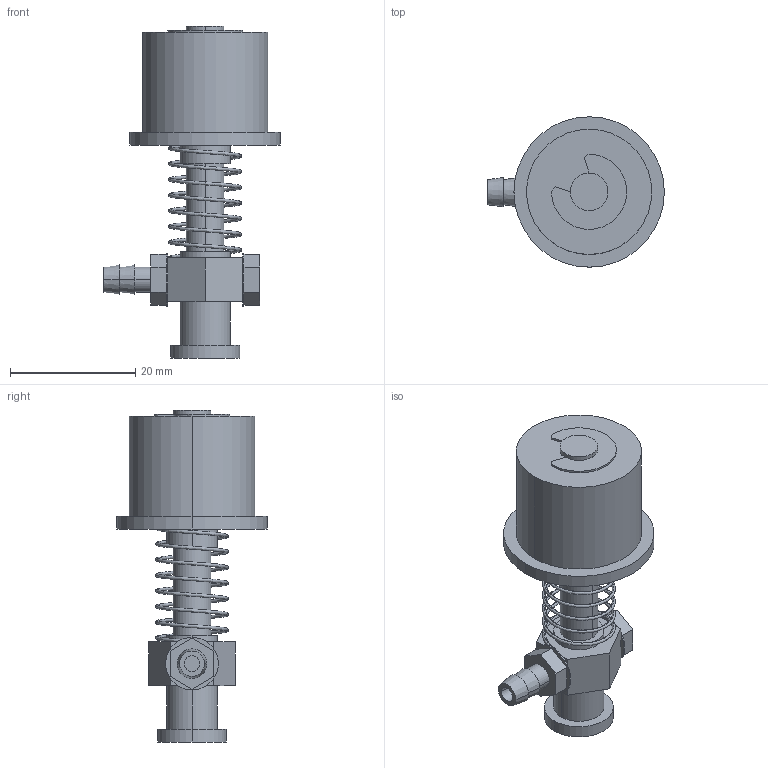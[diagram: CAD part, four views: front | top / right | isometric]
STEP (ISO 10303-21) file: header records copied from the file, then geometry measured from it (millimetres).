
FILE_DESCRIPTION (( 'STEP AP214' ), '1' );
FILE_NAME ('VFM-1020.STEP', '2019-11-16T01:56:44', ( '微软用户' ), ( '微软中国' ), 'SwSTEP 2.0', 'SolidWorks 2016', '' );
FILE_SCHEMA (( 'AUTOMOTIVE_DESIGN' ));
Length unit declared in the file: millimetre
Products named in the file (1): VFM-1020
Bounding box: 28.2 x 24 x 53 mm (x, y, z)
Volume: 8182.6 mm3; surface area: 5687.7 mm2
Topology: 9 solids, 9 shells, 140 faces, 329 edges, 217 vertices
Faces by surface type: cylinder 72, plane 56, cone 6, bspline 6
Entity records: 9452 total; most frequent: CARTESIAN_POINT 4664, ORIENTED_EDGE 654, DIRECTION 625, EDGE_CURVE 327, AXIS2_PLACEMENT_3D 237, VERTEX_POINT 217, EDGE_LOOP 164, UNCERTAINTY_MEASURE_WITH_UNIT 151
